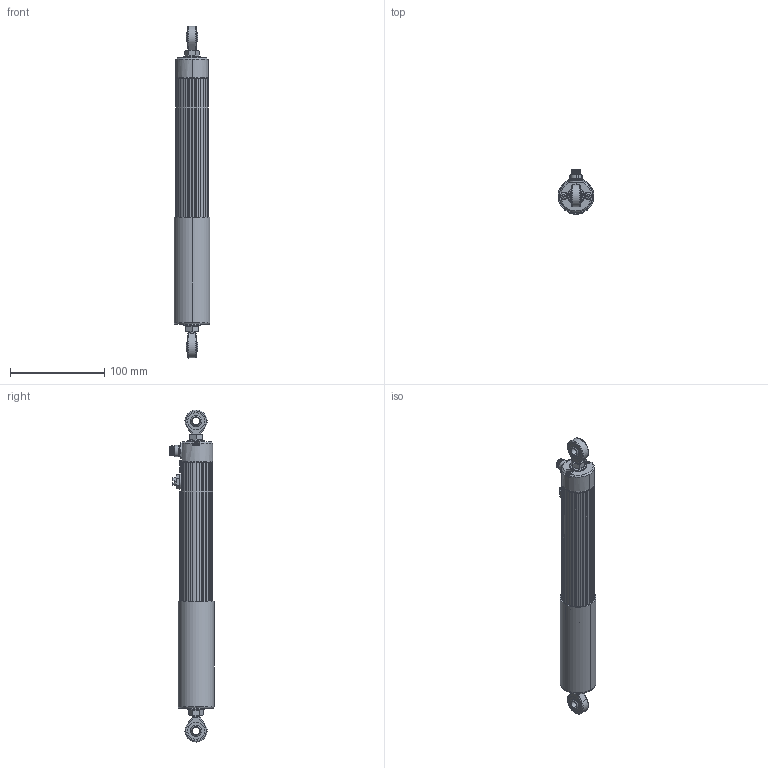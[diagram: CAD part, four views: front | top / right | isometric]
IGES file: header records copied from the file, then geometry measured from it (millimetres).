
Start section: SolidWorks IGES file using analytic representation for surfaces
Global section: file name: I:\Zeichnungen_EK-VM\ZUR BEARBEITUNG\neu_sz\LWX-002\Housing\0075.IGS; native system: SolidWorks 2009; preprocessor: SolidWorks 2009; author: salzinger; date: 090127.105832; units: millimetre
Bounding box: 38 x 46.6 x 351.6 mm (x, y, z)
Volume: 225062.6 mm3; surface area: 89476.8 mm2
Topology: 34 solids, 34 shells, 1092 faces, 5772 edges, 7505 vertices
Faces by surface type: revolution 684, plane 338, bspline 70
